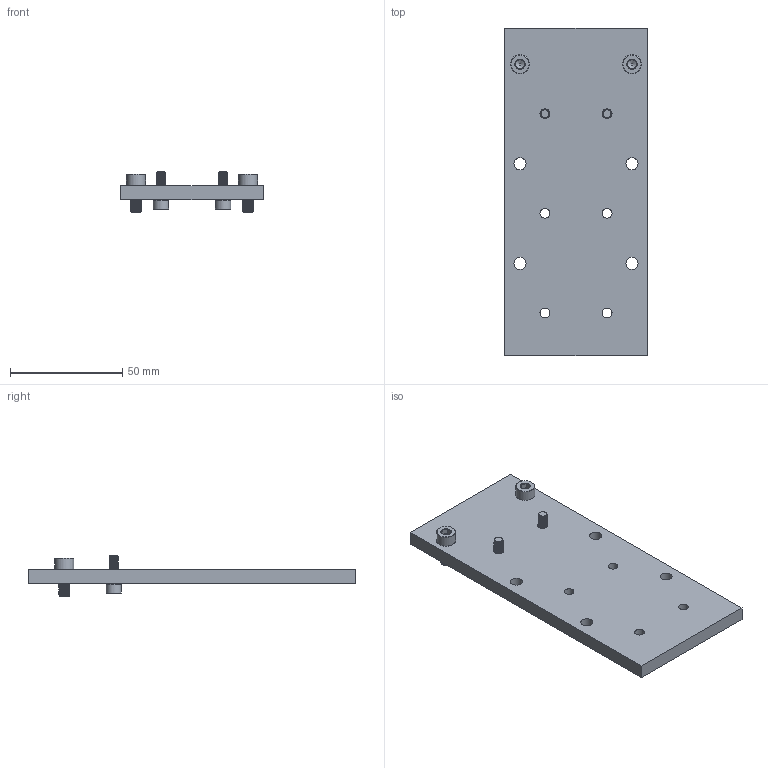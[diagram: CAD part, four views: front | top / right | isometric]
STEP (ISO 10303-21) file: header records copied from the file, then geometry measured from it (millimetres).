
FILE_DESCRIPTION((''),'2;1');
FILE_NAME('C:\3D Projects\3D Standard Parts\98357 Rev B Z Axis Adjustment Plate For 3 Axis Cartesian Robots.stp','2008-04-29T16:02:22',('patch'),(''),'Autodesk Inventor 2008','Autodesk Inventor 2008','');
FILE_SCHEMA(('AUTOMOTIVE_DESIGN { 1 0 10303 214 1 1 1 1 }'));
Length unit declared in the file: inch
Products named in the file (4): 98357 Rev B Z Axis Adjustment Plate For 3 Axis Cartesian Robots; 987989 Z Height Adjustment Bracket; 987978 Socket Head Cap Screw M5 x 0.8 x 12mm; 985504 Socket Head Cap Screw #8-32 x 0.5
Assembly tree (5 placements, depth 2):
  98357 Rev B Z Axis Adjustment Plate For 3 Axis Cartesian Robots
    987989 Z Height Adjustment Bracket
    987978 Socket Head Cap Screw M5 x 0.8 x 12mm  x2
    985504 Socket Head Cap Screw #8-32 x 0.5  x2
Bounding box: 63.5 x 146.05 x 18.35 mm (x, y, z)
Volume: 58883 mm3; surface area: 23797.8 mm2
Topology: 5 solids, 5 shells, 382 faces, 910 edges, 550 vertices
Faces by surface type: cone 168, cylinder 140, plane 70, torus 4
Full cylindrical faces by diameter (mm): 3.452 x2, 3.551 x30, 4.166 x26, 4.342 x28, 4.366 x6, 5 x26, 5.41 x6, 6.858 x2, 8.5 x2
Entity records: 8446 total; most frequent: CARTESIAN_POINT 4438, DIRECTION 728, ORIENTED_EDGE 682, EDGE_LOOP 365, EDGE_CURVE 341, AXIS2_PLACEMENT_3D 340, VERTEX_POINT 288, FACE_OUTER_BOUND 200
